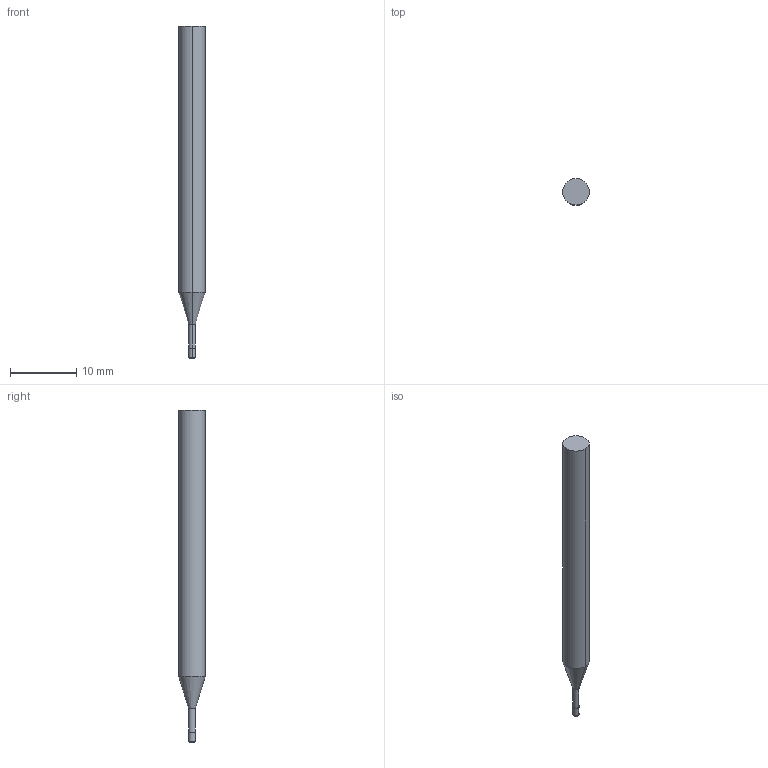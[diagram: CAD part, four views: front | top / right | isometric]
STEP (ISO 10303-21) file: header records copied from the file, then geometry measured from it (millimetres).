
FILE_DESCRIPTION((' '),'2;1');
FILE_NAME( '3MVSM0100R.10N5AH.stp', '2026-01-21T19:27:13', (' '), ('--- Datakit www.datakit.com---'), ' Datakit CrossCadWare V2025.4 Sep 19 2025', 'Mastercam 2027', ' ');
FILE_SCHEMA(('AUTOMOTIVE_DESIGN { 1 0 10303 214 1 1 1 1 }'));
Length unit declared in the file: inch
Products named in the file (1): 3MVSM0100R
Bounding box: 4 x 4 x 50 mm (x, y, z)
Volume: 534.9 mm3; surface area: 573.1 mm2
Topology: 1 solids, 1 shells, 12 faces, 22 edges, 12 vertices
Faces by surface type: cylinder 6, plane 2, torus 2, cone 2
Entity records: 377 total; most frequent: DIRECTION 70, CARTESIAN_POINT 51, ORIENTED_EDGE 44, AXIS2_PLACEMENT_3D 31, EDGE_CURVE 22, CIRCLE 14, VERTEX_POINT 12, EDGE_LOOP 12
